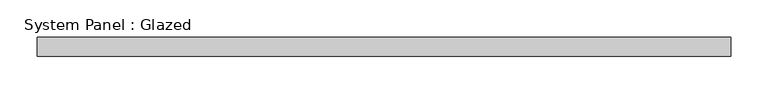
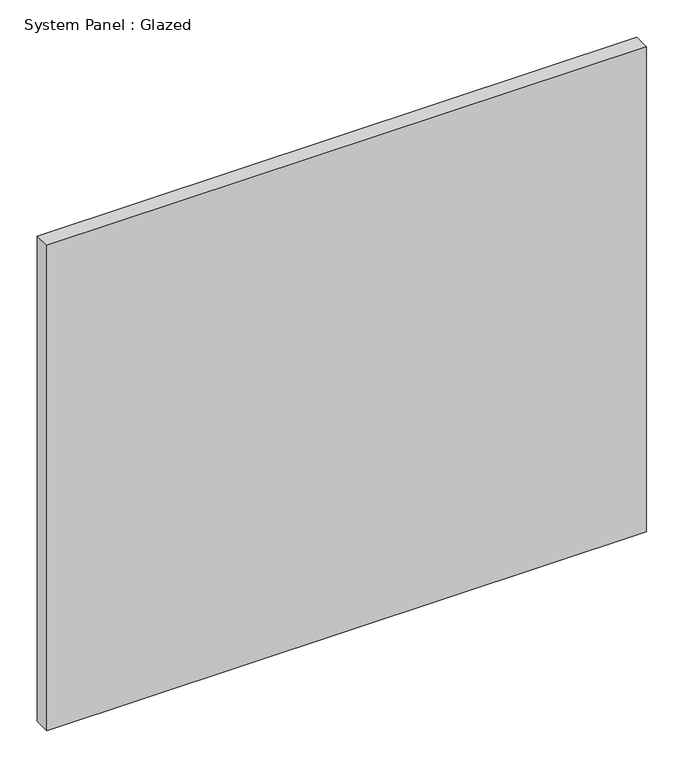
"""IFC4 building model written with IfcOpenShell, lengths in millimetres: plate geometry, System Panel : Glazed."""

from ifc_helpers import new_model, si_unit, origin, origin_with_axes, place, context, project, spatial, polyline, outline, extrude, source, transform, mapped, element, save


def system_panel_glazed_1e7c886c(model_context):
    return source(origin(), model_context, "Body", "SweptSolid", [
        extrude(outline(polyline([(462.5, 24.5), (-462.5, 24.5), (-462.5, 49.5), (462.5, 49.5), (462.5, 24.5)])), origin_with_axes(), (0.0, 0.0, 1.0), 790.592625),
    ])


if __name__ == "__main__":
    model = new_model("IFC4")
    model_context = context("Model", 3, world=origin())
    ifc_project = project(units=[si_unit("LENGTHUNIT", "METRE", prefix="MILLI")], contexts=[model_context])
    site = spatial("IfcSite", under=ifc_project)
    building = spatial("IfcBuilding", under=site)
    placement = place(None, origin())
    system_panel_glazed_shape = system_panel_glazed_1e7c886c(model_context)
    element("IfcPlate", 1, ObjectType="System Panel : Glazed", at=placement, inside=building, context=model_context, shape_type="MappedRepresentation", body=[
        mapped(system_panel_glazed_shape, transform((0.0, 0.0, 0.0), x_axis=(1.0, 0.0, 0.0), y_axis=(0.0, 1.0, 0.0), z_axis=(0.0, 0.0, 1.0))),
    ])
    save(model, "model.ifc")
